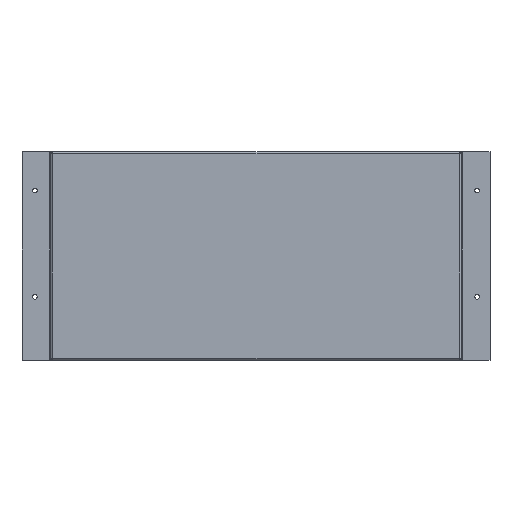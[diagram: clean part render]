
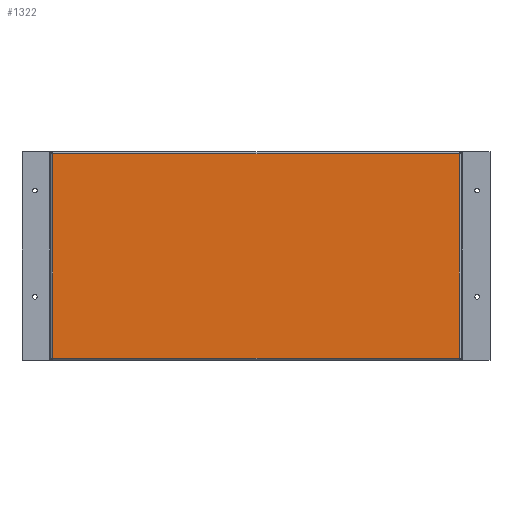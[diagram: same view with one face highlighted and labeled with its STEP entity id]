
A CAD part, top view. The second image highlights one B-rep face of the part: STEP entity #1322.
In plain terms, the highlighted planar face has unit normal (0, 0, 1).
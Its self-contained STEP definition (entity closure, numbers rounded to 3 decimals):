
#175 = VERTEX_POINT ( 'NONE', #341 ) ;
#208 = VERTEX_POINT ( 'NONE', #374 ) ;
#211 = VERTEX_POINT ( 'NONE', #377 ) ;
#213 = VERTEX_POINT ( 'NONE', #379 ) ;
#296 = EDGE_LOOP ( 'NONE', ( #1689, #1691, #1690, #1692 ) ) ;
#341 = CARTESIAN_POINT ( 'NONE',  ( 239.1, 120.1, 0. ) ) ;
#374 = CARTESIAN_POINT ( 'NONE',  ( 239.1, -120.1, 0. ) ) ;
#377 = CARTESIAN_POINT ( 'NONE',  ( -239.1, 120.1, 0. ) ) ;
#379 = CARTESIAN_POINT ( 'NONE',  ( -239.1, -120.1, 0. ) ) ;
#801 = LINE ( 'NONE', #802, #1456 ) ;
#802 = CARTESIAN_POINT ( 'NONE',  ( 239.1, 120.1, 0. ) ) ;
#803 = DIRECTION ( 'NONE',  ( -1., 0., 0. ) ) ;
#882 = LINE ( 'NONE', #883, #1954 ) ;
#883 = CARTESIAN_POINT ( 'NONE',  ( -239.1, -120.1, 0. ) ) ;
#884 = DIRECTION ( 'NONE',  ( 1., 0., 0. ) ) ;
#909 = LINE ( 'NONE', #910, #1796 ) ;
#910 = CARTESIAN_POINT ( 'NONE',  ( 239.1, -122.5, 0. ) ) ;
#911 = DIRECTION ( 'NONE',  ( 0., 1., 0. ) ) ;
#920 = PLANE ( 'NONE',  #1793 ) ;
#927 = LINE ( 'NONE', #928, #1960 ) ;
#928 = CARTESIAN_POINT ( 'NONE',  ( -239.1, -122.5, 0. ) ) ;
#929 = DIRECTION ( 'NONE',  ( 0., 1., 0. ) ) ;
#936 = CARTESIAN_POINT ( 'NONE',  ( -241.5, -122.5, 0. ) ) ;
#937 = DIRECTION ( 'NONE',  ( 0., 0., -1. ) ) ;
#938 = DIRECTION ( 'NONE',  ( -1., 0., 0. ) ) ;
#1277 = EDGE_CURVE ( 'NONE', #175, #211, #801, .T. ) ;
#1304 = EDGE_CURVE ( 'NONE', #213, #208, #882, .T. ) ;
#1313 = EDGE_CURVE ( 'NONE', #208, #175, #909, .T. ) ;
#1319 = EDGE_CURVE ( 'NONE', #213, #211, #927, .T. ) ;
#1322 = ADVANCED_FACE ( 'NONE', ( #1951 ), #920, .F. ) ;
#1456 = VECTOR ( 'NONE', #803, 1000. ) ;
#1689 = ORIENTED_EDGE ( 'NONE', *, *, #1277, .T. ) ;
#1690 = ORIENTED_EDGE ( 'NONE', *, *, #1304, .T. ) ;
#1691 = ORIENTED_EDGE ( 'NONE', *, *, #1319, .F. ) ;
#1692 = ORIENTED_EDGE ( 'NONE', *, *, #1313, .T. ) ;
#1793 = AXIS2_PLACEMENT_3D ( 'NONE', #936, #937, #938 ) ;
#1796 = VECTOR ( 'NONE', #911, 1000. ) ;
#1951 = FACE_OUTER_BOUND ( 'NONE', #296, .T. ) ;
#1954 = VECTOR ( 'NONE', #884, 1000. ) ;
#1960 = VECTOR ( 'NONE', #929, 1000. ) ;
